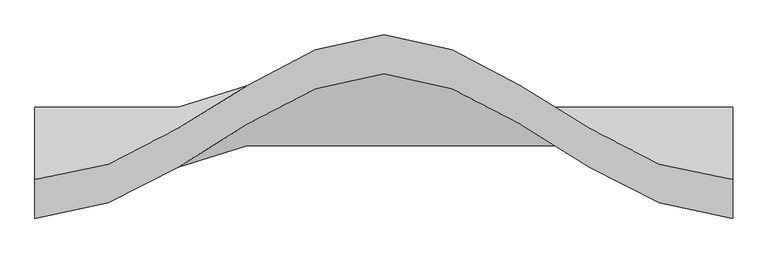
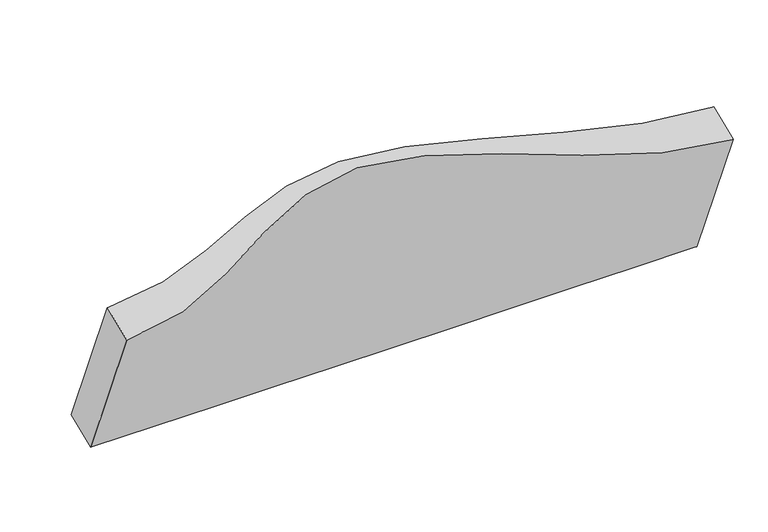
"""IFC4 building model written with IfcOpenShell, lengths in millimetres: plate geometry, مدل پارامتریک کصینوس دار : مدل پارامتریک کصینوس دار."""

import ifcopenshell
import ifcopenshell.guid

model = None  # the IFC model being written
_history = None  # IfcOwnerHistory: only IFC2X3 demands one
_inside = {}  # id of a spatial element -> (the spatial element, [elements in it])
_under = {}  # id of a project, library or spatial element -> (it, [spatial elements below it])
_declared = {}  # id of a project -> (the project, [libraries it declares])
_typed = {}  # id of a type object -> (the type object, [elements of that type])
_made_of = {}  # id of a material, layer set ... -> (it, [elements and type objects made of it])


def new_model(schema):
    """Start an empty IFC model of exactly this schema.

    Asked for "IFC4X3", IfcOpenShell would pick the latest addendum, in which some entities
    have other attributes; the version numbers below select the first issue.
    IFC2X3 requires an IfcOwnerHistory on every rooted entity: one is made here for all.
    """
    global model, _history
    if schema == "IFC4X3":
        model = ifcopenshell.file(schema_version=(4, 3, 0, 0))
    else:
        model = ifcopenshell.file(schema=schema)
    _inside.clear()
    _under.clear()
    _declared.clear()
    _typed.clear()
    _made_of.clear()
    _history = None
    if model.schema == "IFC2X3":
        org = make("IfcOrganization", Name="unknown")
        user = make(
            "IfcPersonAndOrganization",
            ThePerson=make("IfcPerson", FamilyName="unknown"),
            TheOrganization=org,
        )
        app = make(
            "IfcApplication",
            ApplicationDeveloper=org,
            Version="unknown",
            ApplicationFullName="unknown",
            ApplicationIdentifier="unknown",
        )
        _history = make(
            "IfcOwnerHistory",
            OwningUser=user,
            OwningApplication=app,
            ChangeAction="ADDED",
            CreationDate=0,
        )
    return model


def make(cls, **values):
    """One entity of the class cls with the attributes given. An attribute that is None is left unset."""
    return model.create_entity(
        cls, **{name: value for name, value in values.items() if value is not None}
    )


def rooted(cls, **values):
    """An entity with a GlobalId (a new one), such as an element, a storey or a relation."""
    return make(cls, GlobalId=ifcopenshell.guid.new(), OwnerHistory=_history, **values)


def si_unit(unit_type, name, prefix=None):
    """IfcSIUnit, for example si_unit("LENGTHUNIT", "METRE", prefix="MILLI")."""
    return make("IfcSIUnit", UnitType=unit_type, Prefix=prefix, Name=name)


def assignment(units):
    """IfcUnitAssignment: the units of a project."""
    return None if units is None else make("IfcUnitAssignment", Units=units)


def point(xyz):
    """IfcCartesianPoint."""
    return None if xyz is None else make("IfcCartesianPoint", Coordinates=xyz)


def direction(xyz):
    """IfcDirection."""
    return None if xyz is None else make("IfcDirection", DirectionRatios=xyz)


def frame(location, z_axis=None, x_axis=None):
    """IfcAxis2Placement3D, a coordinate frame: its origin and axes. An axis left out is left unset."""
    return make(
        "IfcAxis2Placement3D",
        Location=point(location),
        Axis=direction(z_axis),
        RefDirection=direction(x_axis),
    )


def origin():
    """The frame at (0, 0, 0) with its axes left unset."""
    return frame((0.0, 0.0, 0.0))


def place(relative_to, where):
    """IfcLocalPlacement: puts the frame where relative to a parent placement (None: the world)."""
    return make(
        "IfcLocalPlacement", PlacementRelTo=relative_to, RelativePlacement=where
    )


def context(
    kind, dimensions, precision=None, world=None, true_north=None, identifier=None
):
    """IfcGeometricRepresentationContext, for example the 3D "Model" context."""
    return make(
        "IfcGeometricRepresentationContext",
        ContextIdentifier=identifier,
        ContextType=kind,
        CoordinateSpaceDimension=dimensions,
        Precision=precision,
        WorldCoordinateSystem=world,
        TrueNorth=true_north,
    )


def project(units=None, contexts=None):
    """IfcProject with its units and contexts."""
    return rooted(
        "IfcProject",
        Name="project",
        RepresentationContexts=contexts,
        UnitsInContext=assignment(units),
    )


def spatial(cls, under=None, at=None, **own):
    """A site, building, storey or space (cls), placed at a placement, below another one or the project."""
    s = rooted(cls, ObjectPlacement=at, **own)
    if under is not None:
        _under.setdefault(under.id(), (under, []))[1].append(s)
    return s


def shape(context_of_items, identifier, shape_type, items):
    """IfcShapeRepresentation: the items that make up one representation, for example the "Body"."""
    return make(
        "IfcShapeRepresentation",
        ContextOfItems=context_of_items,
        RepresentationIdentifier=identifier,
        RepresentationType=shape_type,
        Items=items,
    )


def source(mapping_origin, context_of_items, identifier, shape_type, items):
    """IfcRepresentationMap: a shape defined once, which mapped items show again and again."""
    return make(
        "IfcRepresentationMap",
        MappingOrigin=mapping_origin,
        MappedRepresentation=shape(context_of_items, identifier, shape_type, items),
    )


def transform(
    local_origin,
    x_axis=None,
    y_axis=None,
    z_axis=None,
    scale=None,
    scale2=None,
    scale3=None,
    uniform=True,
):
    """IfcCartesianTransformationOperator3D, or its non-uniform kind. x_axis, y_axis, z_axis: its Axis1, 2, 3."""
    if uniform:
        return make(
            "IfcCartesianTransformationOperator3D",
            Axis1=direction(x_axis),
            Axis2=direction(y_axis),
            LocalOrigin=point(local_origin),
            Scale=scale,
            Axis3=direction(z_axis),
        )
    return make(
        "IfcCartesianTransformationOperator3DnonUniform",
        Axis1=direction(x_axis),
        Axis2=direction(y_axis),
        LocalOrigin=point(local_origin),
        Scale=scale,
        Axis3=direction(z_axis),
        Scale2=scale2,
        Scale3=scale3,
    )


def mapped(mapping_source, mapping_target):
    """IfcMappedItem: shows the shape of a source again, moved by a transform."""
    return make(
        "IfcMappedItem", MappingSource=mapping_source, MappingTarget=mapping_target
    )


def made_of(thing, what):
    """Note that an element or type object is made of a material, layer set ...; save() writes the relation."""
    if what is not None:
        _made_of.setdefault(what.id(), (what, []))[1].append(thing)
    return thing


def element(
    cls,
    number,
    at=None,
    inside=None,
    cuts=None,
    type_object=None,
    material=None,
    context=None,
    identifier="Body",
    shape_type=None,
    held_by="IfcProductDefinitionShape",
    body=None,
    shapes=None,
    **own,
):
    """One element of the class cls, such as IfcWall. Its Tag is "e" and its number.

    at: its placement. inside: the storey or other place that contains it. cuts: it is an
    opening in that element (IfcRelVoidsElement). A single representation is given by context,
    identifier, shape_type and body (its items); several are given by shapes. held_by: the class
    of the entity that holds the representations. save() writes the other relations.
    """
    e = rooted(cls, Tag="e%d" % number, ObjectPlacement=at, **own)
    if body is not None:
        shapes = [shape(context, identifier, shape_type, body)]
    if shapes is not None:
        e.Representation = make(held_by, Representations=shapes)
    if inside is not None:
        _inside.setdefault(inside.id(), (inside, []))[1].append(e)
    if cuts is not None:
        rooted(
            "IfcRelVoidsElement", RelatingBuildingElement=cuts, RelatedOpeningElement=e
        )
    if type_object is not None:
        _typed.setdefault(type_object.id(), (type_object, []))[1].append(e)
    return made_of(e, material)


def aggregate(whole, parts):
    """IfcRelAggregates: a whole, such as a stair, and the parts it consists of."""
    return rooted("IfcRelAggregates", RelatingObject=whole, RelatedObjects=parts)


def save(model, path):
    """Write the relations noted so far, then the file.

    IfcRelAggregates (storeys below a building ...), IfcRelContainedInSpatialStructure (elements
    in a storey), IfcRelDefinesByType, IfcRelAssociatesMaterial and IfcRelDeclares: one each for
    every whole, place, type object, material and project.
    """
    for whole, parts in _under.values():
        aggregate(whole, parts)
    for where, things in _inside.values():
        rooted(
            "IfcRelContainedInSpatialStructure",
            RelatedElements=things,
            RelatingStructure=where,
        )
    for kind, things in _typed.values():
        rooted("IfcRelDefinesByType", RelatedObjects=things, RelatingType=kind)
    for what, things in _made_of.values():
        rooted("IfcRelAssociatesMaterial", RelatedObjects=things, RelatingMaterial=what)
    for by, libraries in _declared.values():
        rooted("IfcRelDeclares", RelatingContext=by, RelatedDefinitions=libraries)
    model.write(path)


def plane_surface(at):
    """IfcPlane: the flat surface through the origin of the frame at, square to its z axis."""
    return make("IfcPlane", Position=at)


def spline_curve(degree, points, multiplicities, knots, weights=None):
    """IfcBSplineCurveWithKnots; with weights, IfcRationalBSplineCurveWithKnots."""
    own = dict(
        Degree=degree,
        ControlPointsList=[point(p) for p in points],
        CurveForm="UNSPECIFIED",
        ClosedCurve=False,
        SelfIntersect=False,
        KnotMultiplicities=multiplicities,
        Knots=knots,
        KnotSpec="UNSPECIFIED",
    )
    if weights is None:
        return make("IfcBSplineCurveWithKnots", **own)
    return make("IfcRationalBSplineCurveWithKnots", WeightsData=weights, **own)


def spline_surface(u_degree, v_degree, points, u_multiplicities, v_multiplicities, u_knots, v_knots, weights=None):
    """IfcBSplineSurfaceWithKnots; with weights, IfcRationalBSplineSurfaceWithKnots. points: one row for each step in u."""
    own = dict(
        UDegree=u_degree,
        VDegree=v_degree,
        ControlPointsList=[[point(p) for p in row] for row in points],
        SurfaceForm="UNSPECIFIED",
        UClosed=False,
        VClosed=False,
        SelfIntersect=False,
        UMultiplicities=u_multiplicities,
        VMultiplicities=v_multiplicities,
        UKnots=u_knots,
        VKnots=v_knots,
        KnotSpec="UNSPECIFIED",
    )
    if weights is None:
        return make("IfcBSplineSurfaceWithKnots", **own)
    return make("IfcRationalBSplineSurfaceWithKnots", WeightsData=weights, **own)


def advanced_brep(points, edges, surfaces, faces):
    """IfcAdvancedBrep: a solid bounded by faces that lie on surfaces and meet in shared edges.

    An edge is (start, end): straight between two places in points (the first is 0);
    or (start, end, curve); or (start, end, curve, False) where it runs against its curve.
    A face is (place in surfaces, loops), or (place, loops, False) where it looks against
    its surface's normal. A loop lists edges by number (the first is 1), with a minus sign
    where the edge is run from its end to its start. The first loop is the outer one.
    """
    corners = [point(p) for p in points]
    vertices = [make("IfcVertexPoint", VertexGeometry=c) for c in corners]
    made = []
    for start, end, *more in edges:
        made.append(
            make(
                "IfcEdgeCurve",
                EdgeStart=vertices[start],
                EdgeEnd=vertices[end],
                EdgeGeometry=more[0] if more else make("IfcPolyline", Points=[corners[start], corners[end]]),
                SameSense=more[1] if len(more) > 1 else True,
            )
        )
    hull = []
    for where, loops, *sense in faces:
        bounds = []
        for j, loop in enumerate(loops):
            ring = [make("IfcOrientedEdge", EdgeElement=made[abs(k) - 1], Orientation=k > 0) for k in loop]
            bounds.append(
                make(
                    "IfcFaceOuterBound" if j == 0 else "IfcFaceBound",
                    Bound=make("IfcEdgeLoop", EdgeList=ring),
                    Orientation=True,
                )
            )
        hull.append(make("IfcAdvancedFace", Bounds=bounds, FaceSurface=surfaces[where], SameSense=sense[0] if sense else True))
    return make("IfcAdvancedBrep", Outer=make("IfcClosedShell", CfsFaces=hull))


def plate_53e44fb4(model_context):
    return source(origin(), model_context, "Body", "AdvancedBrep", [
        advanced_brep(
        [(3000.0, 2000.6958488, 11.8623041), (3000.0, 2111.5613927, 57.784316), (5000.0, 2111.5613927, 57.784316), (5000.0, 2000.6958488, 11.8623041), (3000.0, 1904.6766814, 557.2481918), (5000.0, 1904.6766814, 557.2481918), (3000.0, 1793.8111375, 511.3261799), (5000.0, 1793.8111375, 511.3261799)],
        [
            (0, 1),
            (1, 2, spline_curve(3, [(3000.0, 2111.5613927, 57.784316), (3001.333546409, 2111.5613927, 57.784770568), (3002.666932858, 2111.5613927, 57.785224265), (3350.371354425, 2111.5613927, 57.548321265), (3675.185677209, 2111.5613927, -34.6361678), (4324.814322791, 2111.5613927, -34.6361678), (4649.628645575, 2111.5613927, 57.548321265), (4997.333067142, 2111.5613927, 57.785224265), (4998.666453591, 2111.5613927, 57.784770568), (5000.0, 2111.5613927, 57.784316)], [4, 2, 2, 2, 4], [0.0, 0.0019169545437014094, 0.4999999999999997, 0.9980830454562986, 1.0])),
            (2, 3),
            (3, 0, spline_curve(3, [(5000.0, 2000.6958488, 11.8623041), (4998.666453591, 2000.6958488, 11.862306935), (4997.333067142, 2000.6958488, 11.862309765), (4649.628645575, 2000.6958488, 11.860832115), (4324.814322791, 2000.6958488, 11.2858441), (3675.185677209, 2000.6958488, 11.2858441), (3350.371354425, 2000.6958488, 11.860832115), (3002.666932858, 2000.6958488, 11.862309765), (3001.333546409, 2000.6958488, 11.862306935), (3000.0, 2000.6958488, 11.8623041)], [4, 2, 2, 2, 4], [0.0, 0.0019169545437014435, 0.5000000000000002, 0.9980830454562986, 1.0])),
            (1, 4),
            (4, 5, spline_curve(3, [(3000.0, 1904.6766814, 557.2481918), (3001.333546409, 1904.674646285, 557.248646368), (3002.666932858, 1904.672615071, 557.249100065), (3350.371354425, 1905.733237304, 557.012197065), (3675.185677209, 2318.446104, 464.827708), (4324.814322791, 2318.446104, 464.827708), (4649.628645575, 1905.733237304, 557.012197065), (4997.333067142, 1904.672615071, 557.249100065), (4998.666453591, 1904.674646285, 557.248646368), (5000.0, 1904.6766814, 557.2481918)], [4, 2, 2, 2, 4], [0.0, 0.0019169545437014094, 0.4999999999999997, 0.9980830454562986, 1.0])),
            (5, 2),
            (4, 6),
            (6, 7, spline_curve(3, [(3000.0, 1793.8111375, 511.3261799), (3001.333546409, 1793.809102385, 511.326182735), (3002.666932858, 1793.807071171, 511.326185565), (3350.371354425, 1794.867693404, 511.324707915), (3675.185677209, 2207.5805601, 510.7497199), (4324.814322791, 2207.5805601, 510.7497199), (4649.628645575, 1794.867693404, 511.324707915), (4997.333067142, 1793.807071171, 511.326185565), (4998.666453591, 1793.809102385, 511.326182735), (5000.0, 1793.8111375, 511.3261799)], [4, 2, 2, 2, 4], [0.0, 0.0019169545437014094, 0.4999999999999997, 0.9980830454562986, 1.0])),
            (7, 5),
            (6, 0),
            (3, 7),
        ],
        [
            spline_surface(3, 3, [[(3000.0, 2000.6958488, 11.8623041), (3001.333546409, 2000.6958488, 11.862306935), (3002.666932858, 2000.6958488, 11.862309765), (3350.371354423, 2000.6958488, 11.860832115), (3675.185677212, 2000.6958488, 11.2858441), (4324.814322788, 2000.6958488, 11.2858441), (4649.628645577, 2000.6958488, 11.860832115), (4997.333067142, 2000.6958488, 11.862309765), (4998.666453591, 2000.6958488, 11.862306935), (5000.0, 2000.6958488, 11.8623041)], [(3000.0, 2037.6510301, 27.169641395), (3001.333546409, 2037.6510301, 27.169794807), (3002.666932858, 2037.6510301, 27.169947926), (3350.371354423, 2037.6510301, 27.089995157), (3675.185677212, 2037.6510301, -4.021493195), (4324.814322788, 2037.6510301, -4.021493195), (4649.628645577, 2037.6510301, 27.089995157), (4997.333067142, 2037.6510301, 27.169947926), (4998.666453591, 2037.6510301, 27.169794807), (5000.0, 2037.6510301, 27.169641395)], [(3000.0, 2074.6062114, 42.476978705), (3001.333546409, 2074.6062114, 42.477282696), (3002.666932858, 2074.6062114, 42.477586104), (3350.371354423, 2074.6062114, 42.319158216), (3675.185677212, 2074.6062114, -19.328830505), (4324.814322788, 2074.6062114, -19.328830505), (4649.628645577, 2074.6062114, 42.319158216), (4997.333067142, 2074.6062114, 42.477586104), (4998.666453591, 2074.6062114, 42.477282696), (5000.0, 2074.6062114, 42.476978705)], [(3000.0, 2111.5613927, 57.784316), (3001.333546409, 2111.5613927, 57.784770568), (3002.666932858, 2111.5613927, 57.785224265), (3350.371354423, 2111.5613927, 57.548321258), (3675.185677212, 2111.5613927, -34.6361678), (4324.814322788, 2111.5613927, -34.6361678), (4649.628645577, 2111.5613927, 57.548321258), (4997.333067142, 2111.5613927, 57.785224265), (4998.666453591, 2111.5613927, 57.784770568), (5000.0, 2111.5613927, 57.784316)]], [4, 4], [4, 2, 2, 2, 4], [0.0, 1.0], [0.0, 0.0019169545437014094, 0.4999999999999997, 0.9980830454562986, 1.0]),
            spline_surface(3, 3, [[(3000.0, 2111.5613927, 57.784316), (3001.333546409, 2111.5613927, 57.784770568), (3002.666932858, 2111.5613927, 57.785224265), (3350.371354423, 2111.5613927, 57.548321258), (3675.185677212, 2111.5613927, -34.6361678), (4324.814322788, 2111.5613927, -34.6361678), (4649.628645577, 2111.5613927, 57.548321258), (4997.333067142, 2111.5613927, 57.785224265), (4998.666453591, 2111.5613927, 57.784770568), (5000.0, 2111.5613927, 57.784316)], [(3000.0, 2042.599822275, 224.272274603), (3001.333546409, 2042.599143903, 224.272729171), (3002.666932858, 2042.598466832, 224.273182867), (3350.371354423, 2042.952007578, 224.03627986), (3675.185677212, 2180.522963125, 131.851790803), (4324.814322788, 2180.522963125, 131.851790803), (4649.628645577, 2042.952007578, 224.03627986), (4997.333067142, 2042.598466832, 224.273182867), (4998.666453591, 2042.599143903, 224.272729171), (5000.0, 2042.599822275, 224.272274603)], [(3000.0, 1973.638251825, 390.760233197), (3001.333546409, 1973.636895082, 390.760687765), (3002.666932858, 1973.635540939, 390.761141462), (3350.371354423, 1974.342622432, 390.524238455), (3675.185677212, 2249.484533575, 298.339749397), (4324.814322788, 2249.484533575, 298.339749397), (4649.628645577, 1974.342622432, 390.524238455), (4997.333067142, 1973.635540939, 390.761141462), (4998.666453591, 1973.636895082, 390.760687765), (5000.0, 1973.638251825, 390.760233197)], [(3000.0, 1904.6766814, 557.2481918), (3001.333546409, 1904.674646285, 557.248646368), (3002.666932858, 1904.672615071, 557.249100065), (3350.371354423, 1905.73323731, 557.012197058), (3675.185677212, 2318.446104, 464.827708), (4324.814322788, 2318.446104, 464.827708), (4649.628645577, 1905.73323731, 557.012197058), (4997.333067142, 1904.672615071, 557.249100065), (4998.666453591, 1904.674646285, 557.248646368), (5000.0, 1904.6766814, 557.2481918)]], [4, 4], [4, 2, 2, 2, 4], [0.0, 1.0], [0.0, 0.0019169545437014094, 0.4999999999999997, 0.9980830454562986, 1.0]),
            spline_surface(3, 3, [[(3000.0, 1904.6766814, 557.2481918), (3001.333546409, 1904.674646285, 557.248646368), (3002.666932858, 1904.672615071, 557.249100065), (3350.371354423, 1905.73323731, 557.012197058), (3675.185677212, 2318.446104, 464.827708), (4324.814322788, 2318.446104, 464.827708), (4649.628645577, 1905.73323731, 557.012197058), (4997.333067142, 1904.672615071, 557.249100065), (4998.666453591, 1904.674646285, 557.248646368), (5000.0, 1904.6766814, 557.2481918)], [(3000.0, 1867.7215001, 541.940854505), (3001.333546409, 1867.719464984, 541.941158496), (3002.666932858, 1867.71743377, 541.941461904), (3350.371354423, 1868.778056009, 541.783034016), (3675.185677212, 2281.4909227, 480.135045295), (4324.814322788, 2281.4909227, 480.135045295), (4649.628645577, 1868.778056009, 541.783034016), (4997.333067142, 1867.71743377, 541.941461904), (4998.666453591, 1867.719464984, 541.941158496), (5000.0, 1867.7215001, 541.940854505)], [(3000.0, 1830.7663188, 526.633517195), (3001.333546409, 1830.764283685, 526.633670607), (3002.666932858, 1830.762252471, 526.633823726), (3350.371354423, 1831.82287471, 526.553870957), (3675.185677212, 2244.5357414, 495.442382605), (4324.814322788, 2244.5357414, 495.442382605), (4649.628645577, 1831.82287471, 526.553870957), (4997.333067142, 1830.762252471, 526.633823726), (4998.666453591, 1830.764283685, 526.633670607), (5000.0, 1830.7663188, 526.633517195)], [(3000.0, 1793.8111375, 511.3261799), (3001.333546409, 1793.809102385, 511.326182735), (3002.666932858, 1793.807071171, 511.326185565), (3350.371354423, 1794.86769341, 511.324707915), (3675.185677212, 2207.5805601, 510.7497199), (4324.814322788, 2207.5805601, 510.7497199), (4649.628645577, 1794.86769341, 511.324707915), (4997.333067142, 1793.807071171, 511.326185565), (4998.666453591, 1793.809102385, 511.326182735), (5000.0, 1793.8111375, 511.3261799)]], [4, 4], [4, 2, 2, 2, 4], [0.0, 1.0], [0.0, 0.0019169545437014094, 0.4999999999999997, 0.9980830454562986, 1.0]),
            spline_surface(3, 3, [[(3000.0, 1793.8111375, 511.3261799), (3001.333546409, 1793.809102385, 511.326182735), (3002.666932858, 1793.807071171, 511.326185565), (3350.371354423, 1794.86769341, 511.324707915), (3675.185677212, 2207.5805601, 510.7497199), (4324.814322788, 2207.5805601, 510.7497199), (4649.628645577, 1794.86769341, 511.324707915), (4997.333067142, 1793.807071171, 511.326185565), (4998.666453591, 1793.809102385, 511.326182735), (5000.0, 1793.8111375, 511.3261799)], [(3000.0, 1862.772707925, 344.838221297), (3001.333546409, 1862.771351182, 344.838224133), (3002.666932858, 1862.769997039, 344.838226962), (3350.371354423, 1863.477078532, 344.836749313), (3675.185677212, 2138.618989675, 344.261761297), (4324.814322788, 2138.618989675, 344.261761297), (4649.628645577, 1863.477078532, 344.836749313), (4997.333067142, 1862.769997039, 344.838226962), (4998.666453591, 1862.771351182, 344.838224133), (5000.0, 1862.772707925, 344.838221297)], [(3000.0, 1931.734278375, 178.350262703), (3001.333546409, 1931.733600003, 178.350265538), (3002.666932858, 1931.732922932, 178.350268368), (3350.371354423, 1932.086463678, 178.348790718), (3675.185677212, 2069.657419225, 177.773802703), (4324.814322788, 2069.657419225, 177.773802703), (4649.628645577, 1932.086463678, 178.348790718), (4997.333067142, 1931.732922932, 178.350268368), (4998.666453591, 1931.733600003, 178.350265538), (5000.0, 1931.734278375, 178.350262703)], [(3000.0, 2000.6958488, 11.8623041), (3001.333546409, 2000.6958488, 11.862306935), (3002.666932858, 2000.6958488, 11.862309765), (3350.371354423, 2000.6958488, 11.860832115), (3675.185677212, 2000.6958488, 11.2858441), (4324.814322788, 2000.6958488, 11.2858441), (4649.628645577, 2000.6958488, 11.860832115), (4997.333067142, 2000.6958488, 11.862309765), (4998.666453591, 2000.6958488, 11.862306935), (5000.0, 2000.6958488, 11.8623041)]], [4, 4], [4, 2, 2, 2, 4], [0.0, 1.0], [0.0, 0.0019169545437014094, 0.4999999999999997, 0.9980830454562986, 1.0]),
            plane_surface(frame((5000.0, 1952.6862651, 284.5552479), z_axis=(1.0000000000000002, 0.0, 0.0), x_axis=(0.0, 0.9238795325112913, 0.382683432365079))),
            plane_surface(frame((3000.0, 1952.6862651, 284.5552479), z_axis=(-1.0, 0.0, 0.0), x_axis=(0.0, -0.38268343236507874, 0.9238795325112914))),
        ],
        [
            (0, [[1, 2, 3, 4]]),
            (1, [[5, 6, 7, -2]]),
            (2, [[8, 9, 10, -6]]),
            (3, [[11, -4, 12, -9]]),
            (4, [[-3, -7, -10, -12]]),
            (5, [[-11, -8, -5, -1]]),
        ],
    ),
    ])


if __name__ == "__main__":
    model = new_model("IFC4")
    model_context = context("Model", 3, world=origin())
    ifc_project = project(units=[si_unit("LENGTHUNIT", "METRE", prefix="MILLI")], contexts=[model_context])
    site = spatial("IfcSite", under=ifc_project)
    building = spatial("IfcBuilding", under=site)
    placement = place(None, origin())
    plate_shape = plate_53e44fb4(model_context)
    element("IfcPlate", 1, ObjectType="مدل پارامتریک کصینوس دار : مدل پارامتریک کصینوس دار", at=placement, inside=building, context=model_context, shape_type="MappedRepresentation", body=[
        mapped(plate_shape, transform((0.0, 0.0, 0.0), x_axis=(1.0, 0.0, 0.0), y_axis=(0.0, 1.0, 0.0), z_axis=(0.0, 0.0, 1.0))),
    ])
    save(model, "model.ifc")
